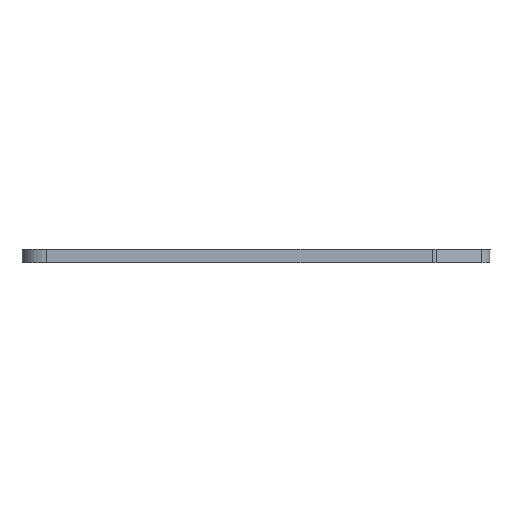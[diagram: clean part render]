
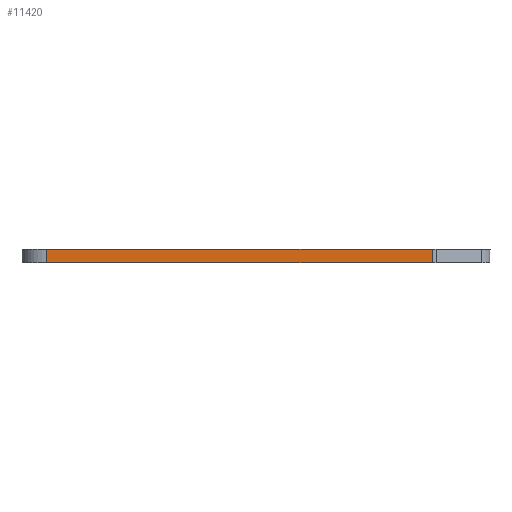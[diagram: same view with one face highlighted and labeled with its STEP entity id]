
A CAD part, front view. The second image highlights one B-rep face of the part: STEP entity #11420.
In plain terms, the highlighted planar face has unit normal (0, -1, 0).
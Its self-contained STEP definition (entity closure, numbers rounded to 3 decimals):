
#1580=CARTESIAN_POINT('',(12.73,-38.2,
0.));
#1590=VERTEX_POINT('',#1580);
#1620=CARTESIAN_POINT('',(47.92,-38.2,
0.));
#1630=DIRECTION('',(-1.,0.,0.));
#1640=VECTOR('',#1630,1.);
#1650=LINE('',#1620,#1640);
#1660=CARTESIAN_POINT('',(75.703,-38.2,
0.));
#1670=VERTEX_POINT('',#1660);
#1680=EDGE_CURVE('',#1670,#1590,#1650,.T.);
#4820=CARTESIAN_POINT('',(75.703,-38.2,
2.2));
#4830=VERTEX_POINT('',#4820);
#4860=CARTESIAN_POINT('',(47.92,-38.2,2.2))
;
#4870=DIRECTION('',(-1.,0.,0.));
#4880=VECTOR('',#4870,1.);
#4890=LINE('',#4860,#4880);
#4900=CARTESIAN_POINT('',(12.73,-38.2,
2.2));
#4910=VERTEX_POINT('',#4900);
#4920=EDGE_CURVE('',#4830,#4910,#4890,.T.);
#11160=CARTESIAN_POINT('',(12.73,-38.2,
0.));
#11170=DIRECTION('',(0.,0.,-1.));
#11180=VECTOR('',#11170,1.);
#11190=LINE('',#11160,#11180);
#11200=EDGE_CURVE('',#4910,#1590,#11190,.T.);
#11260=CARTESIAN_POINT('',(75.703,-38.2,
0.));
#11270=DIRECTION('',(0.,-1.,0.));
#11280=DIRECTION('',(1.,0.,0.));
#11290=AXIS2_PLACEMENT_3D('',#11260,#11270,#11280);
#11300=PLANE('',#11290);
#11310=ORIENTED_EDGE('',*,*,#11200,.T.);
#11320=ORIENTED_EDGE('',*,*,#4920,.T.);
#11330=CARTESIAN_POINT('',(75.703,-38.2,
0.));
#11340=DIRECTION('',(0.,0.,1.));
#11350=VECTOR('',#11340,1.);
#11360=LINE('',#11330,#11350);
#11370=EDGE_CURVE('',#1670,#4830,#11360,.T.);
#11380=ORIENTED_EDGE('',*,*,#11370,.T.);
#11390=ORIENTED_EDGE('',*,*,#1680,.F.);
#11400=EDGE_LOOP('',(#11390,#11380,#11320,#11310));
#11410=FACE_OUTER_BOUND('',#11400,.T.);
#11420=ADVANCED_FACE('',(#11410),#11300,.T.);
